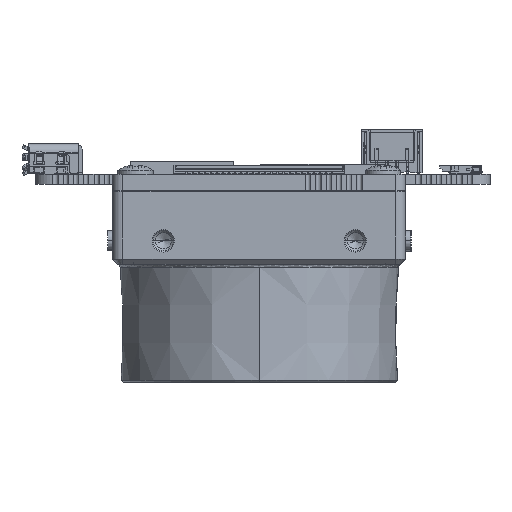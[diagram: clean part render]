
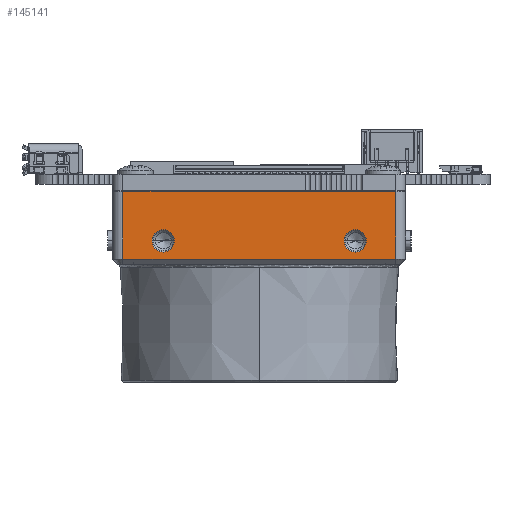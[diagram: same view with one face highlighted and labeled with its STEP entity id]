
A CAD part, front view. The second image highlights one B-rep face of the part: STEP entity #145141.
In plain terms, the highlighted planar face has unit normal (0, -1, 0) as drawn and (-1, 0, 0) by its records, which use the part's own axes.
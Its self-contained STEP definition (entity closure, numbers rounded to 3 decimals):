
#140200=DIRECTION('',(0.,-1.,0.));
#140201=VECTOR('',#140200,27.);
#140202=CARTESIAN_POINT('',(-14.5,13.5,
6.9));
#140203=LINE('',#140202,#140201);
#140207=DIRECTION('',(0.,0.,-1.));
#140208=VECTOR('',#140207,6.72);
#140209=CARTESIAN_POINT('',(-14.5,-13.5,
6.9));
#140210=LINE('',#140209,#140208);
#140214=DIRECTION('',(0.,1.,0.));
#140215=VECTOR('',#140214,27.);
#140216=CARTESIAN_POINT('',(-14.5,-13.5,
0.18));
#140217=LINE('',#140216,#140215);
#140221=DIRECTION('',(0.,0.,-1.));
#140222=VECTOR('',#140221,6.72);
#140223=CARTESIAN_POINT('',(-14.5,13.5,
6.9));
#140224=LINE('',#140223,#140222);
#140228=CARTESIAN_POINT('',(-14.5,9.5,2.));
#140229=DIRECTION('',(1.,0.,0.));
#140230=DIRECTION('',(0.,-1.,0.));
#140231=AXIS2_PLACEMENT_3D('',#140228,#140229,#140230);
#140236=CARTESIAN_POINT('',(-14.5,9.5,2.));
#140237=DIRECTION('',(1.,0.,0.));
#140238=DIRECTION('',(0.,1.,0.));
#140239=AXIS2_PLACEMENT_3D('',#140236,#140237,#140238);
#140244=CARTESIAN_POINT('',(-14.5,-9.5,2.));
#140245=DIRECTION('',(1.,0.,0.));
#140246=DIRECTION('',(0.,-1.,0.));
#140247=AXIS2_PLACEMENT_3D('',#140244,#140245,#140246);
#140252=CARTESIAN_POINT('',(-14.5,-9.5,2.));
#140253=DIRECTION('',(1.,0.,0.));
#140254=DIRECTION('',(0.,1.,0.));
#140255=AXIS2_PLACEMENT_3D('',#140252,#140253,#140254);
#144064=CARTESIAN_POINT('',(-14.5,-13.5,0.18));
#144065=VERTEX_POINT('',#144064);
#144066=CARTESIAN_POINT('',(-14.5,13.5,
0.18));
#144067=VERTEX_POINT('',#144066);
#144092=CARTESIAN_POINT('',(-14.5,13.5,6.9));
#144093=VERTEX_POINT('',#144092);
#144096=CARTESIAN_POINT('',(-14.5,-13.5,
6.9));
#144097=VERTEX_POINT('',#144096);
#144214=CARTESIAN_POINT('',(-14.5,8.4,2.));
#144215=CARTESIAN_POINT('',(-14.5,10.6,2.));
#144216=VERTEX_POINT('',#144214);
#144217=VERTEX_POINT('',#144215);
#144222=CARTESIAN_POINT('',(-14.5,-10.6,2.));
#144223=CARTESIAN_POINT('',(-14.5,-8.4,2.));
#144224=VERTEX_POINT('',#144222);
#144225=VERTEX_POINT('',#144223);
#145116=CARTESIAN_POINT('',(-14.5,15.,0.));
#145117=DIRECTION('',(-1.,0.,0.));
#145118=DIRECTION('',(0.,-1.,0.));
#145119=AXIS2_PLACEMENT_3D('',#145116,#145117,#145118);
#145120=PLANE('',#145119);
#145121=ORIENTED_EDGE('',*,*,#144911,.T.);
#145123=ORIENTED_EDGE('',*,*,#145122,.T.);
#145125=ORIENTED_EDGE('',*,*,#145124,.T.);
#145126=ORIENTED_EDGE('',*,*,#145101,.F.);
#145127=EDGE_LOOP('',(#145121,#145123,#145125,#145126));
#145128=FACE_OUTER_BOUND('',#145127,.F.);
#145130=ORIENTED_EDGE('',*,*,#145129,.F.);
#145132=ORIENTED_EDGE('',*,*,#145131,.F.);
#145133=EDGE_LOOP('',(#145130,#145132));
#145134=FACE_BOUND('',#145133,.F.);
#145136=ORIENTED_EDGE('',*,*,#145135,.F.);
#145138=ORIENTED_EDGE('',*,*,#145137,.F.);
#145139=EDGE_LOOP('',(#145136,#145138));
#145140=FACE_BOUND('',#145139,.F.);
#145141=ADVANCED_FACE('',(#145128,#145134,#145140),#145120,.T.);
#140232=CIRCLE('',#140231,1.1);
#140240=CIRCLE('',#140239,1.1);
#140248=CIRCLE('',#140247,1.1);
#140256=CIRCLE('',#140255,1.1);
#144911=EDGE_CURVE('',#144093,#144097,#140203,.T.);
#145101=EDGE_CURVE('',#144093,#144067,#140224,.T.);
#145122=EDGE_CURVE('',#144097,#144065,#140210,.T.);
#145124=EDGE_CURVE('',#144065,#144067,#140217,.T.);
#145129=EDGE_CURVE('',#144216,#144217,#140232,.T.);
#145131=EDGE_CURVE('',#144217,#144216,#140240,.T.);
#145135=EDGE_CURVE('',#144224,#144225,#140248,.T.);
#145137=EDGE_CURVE('',#144225,#144224,#140256,.T.);
